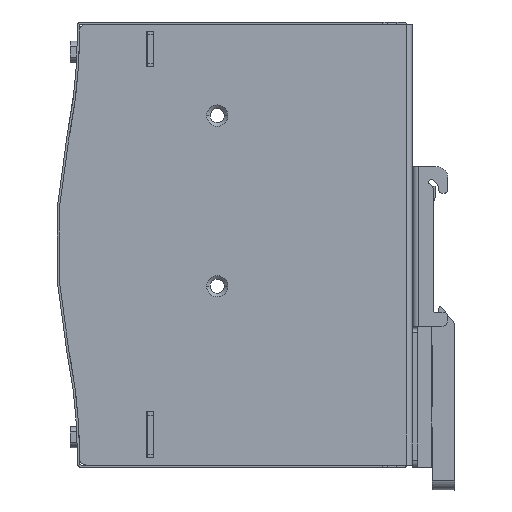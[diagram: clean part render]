
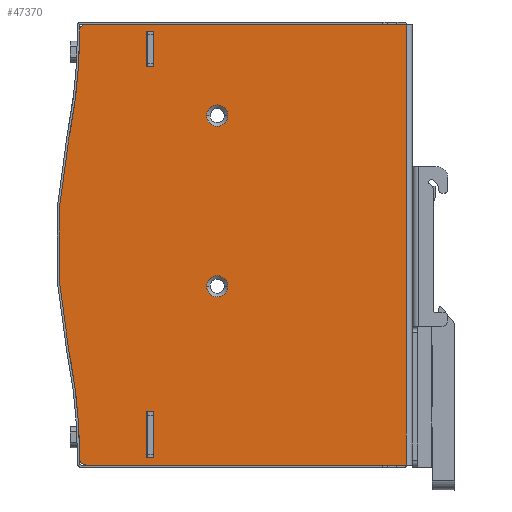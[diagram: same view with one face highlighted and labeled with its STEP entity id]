
A CAD part, front view. The second image highlights one B-rep face of the part: STEP entity #47370.
In plain terms, the highlighted planar face has unit normal (0, -1, 0).
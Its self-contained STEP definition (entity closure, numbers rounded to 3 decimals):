
#890=CARTESIAN_POINT('',(84.303,20.236,74.));
#900=VERTEX_POINT('',#890);
#930=CARTESIAN_POINT('',(78.605,20.236,74.));
#940=DIRECTION('',(1.,0.,0.));
#950=VECTOR('',#940,1.);
#960=LINE('',#930,#950);
#970=CARTESIAN_POINT('',(78.605,20.236,74.));
#980=VERTEX_POINT('',#970);
#990=EDGE_CURVE('',#980,#900,#960,.T.);
#4230=CARTESIAN_POINT('',(78.605,20.236,-50.));
#4240=VERTEX_POINT('',#4230);
#4270=CARTESIAN_POINT('',(78.605,20.236,-50.))
;
#4280=DIRECTION('',(1.,0.,0.));
#4290=VECTOR('',#4280,1.);
#4300=LINE('',#4270,#4290);
#4310=CARTESIAN_POINT('',(84.303,20.236,-50.));
#4320=VERTEX_POINT('',#4310);
#4330=EDGE_CURVE('',#4240,#4320,#4300,.T.);
#5250=CARTESIAN_POINT('',(-5.71,20.236,-50.)
);
#5260=DIRECTION('',(1.,0.,0.));
#5270=VECTOR('',#5260,1.);
#5280=LINE('',#5250,#5270);
#5290=CARTESIAN_POINT('',(-5.71,20.236,-50.)
);
#5300=VERTEX_POINT('',#5290);
#5310=EDGE_CURVE('',#5300,#4240,#5280,.T.);
#45300=CARTESIAN_POINT('',(-7.598,20.236,-48.661
));
#45310=VERTEX_POINT('',#45300);
#45340=CARTESIAN_POINT('',(-5.71,20.236,-48.
));
#45350=DIRECTION('',(0.,-1.,-0.));
#45360=DIRECTION('',(-0.944,0.,-0.331));
#45370=AXIS2_PLACEMENT_3D('',#45340,#45350,#45360);
#45380=CIRCLE('',#45370,2.);
#45390=EDGE_CURVE('',#45310,#5300,#45380,.T.);
#45440=CARTESIAN_POINT('',(-13.667,20.236,0.));
#45450=DIRECTION('',(0.,-1.,0.));
#45460=DIRECTION('',(-1.,0.,0.));
#45470=AXIS2_PLACEMENT_3D('',#45440,#45450,#45460);
#45480=PLANE('',#45470);
#45490=CARTESIAN_POINT('',(-158.628,20.236,-48.113
));
#45500=DIRECTION('',(0.,-1.,0.));
#45510=DIRECTION('',(1.,0.,0.));
#45520=AXIS2_PLACEMENT_3D('',#45490,#45500,#45510);
#45530=CIRCLE('',#45520,151.031);
#45540=CARTESIAN_POINT('',(-7.597,20.236,-48.061)
);
#45550=VERTEX_POINT('',#45540);
#45560=EDGE_CURVE('',#45310,#45550,#45530,.T.);
#45570=ORIENTED_EDGE('',*,*,#45560,.F.);
#45580=CARTESIAN_POINT('',(-157.597,20.236,-48.019
));
#45590=DIRECTION('',(-0.,1.,0.));
#45600=DIRECTION('',(0.983,0.,0.181));
#45610=AXIS2_PLACEMENT_3D('',#45580,#45590,#45600);
#45620=CIRCLE('',#45610,150.);
#45630=CARTESIAN_POINT('',(-10.075,20.236,-20.866));
#45640=VERTEX_POINT('',#45630);
#45650=EDGE_CURVE('',#45640,#45550,#45620,.T.);
#45660=ORIENTED_EDGE('',*,*,#45650,.T.);
#45670=CARTESIAN_POINT('',(-158.628,20.236,-48.113
));
#45680=DIRECTION('',(0.,1.,0.));
#45690=DIRECTION('',(0.98,0.,
0.199));
#45700=AXIS2_PLACEMENT_3D('',#45670,#45680,#45690);
#45710=CIRCLE('',#45700,151.031);
#45720=CARTESIAN_POINT('',(-10.632,20.236,-17.99
));
#45730=VERTEX_POINT('',#45720);
#45740=EDGE_CURVE('',#45730,#45640,#45710,.T.);
#45750=ORIENTED_EDGE('',*,*,#45740,.T.);
#45760=CARTESIAN_POINT('',(136.238,20.236,12.))
;
#45770=DIRECTION('',(0.,-1.,0.));
#45780=DIRECTION('',(-0.98,0.,
0.2));
#45790=AXIS2_PLACEMENT_3D('',#45760,#45770,#45780);
#45800=CIRCLE('',#45790,149.9);
#45810=CARTESIAN_POINT('',(-10.632,20.236,41.99)
);
#45820=VERTEX_POINT('',#45810);
#45830=EDGE_CURVE('',#45820,#45730,#45800,.T.);
#45840=ORIENTED_EDGE('',*,*,#45830,.T.);
#45850=CARTESIAN_POINT('',(-158.628,20.236,72.113)
);
#45860=DIRECTION('',(0.,1.,0.));
#45870=DIRECTION('',(0.984,0.,
-0.18));
#45880=AXIS2_PLACEMENT_3D('',#45850,#45860,#45870);
#45890=CIRCLE('',#45880,151.031);
#45900=CARTESIAN_POINT('',(-10.075,20.236,44.865)
);
#45910=VERTEX_POINT('',#45900);
#45920=EDGE_CURVE('',#45910,#45820,#45890,.T.);
#45930=ORIENTED_EDGE('',*,*,#45920,.T.);
#45940=CARTESIAN_POINT('',(-157.597,20.236,72.019)
);
#45950=DIRECTION('',(-0.,1.,0.));
#45960=DIRECTION('',(1.,0.,0.));
#45970=AXIS2_PLACEMENT_3D('',#45940,#45950,#45960);
#45980=CIRCLE('',#45970,150.);
#45990=CARTESIAN_POINT('',(-7.597,20.236,72.061)
);
#46000=VERTEX_POINT('',#45990);
#46010=EDGE_CURVE('',#46000,#45910,#45980,.T.);
#46020=ORIENTED_EDGE('',*,*,#46010,.T.);
#46030=CARTESIAN_POINT('',(-158.628,20.236,72.113)
);
#46040=DIRECTION('',(0.,-1.,0.));
#46050=DIRECTION('',(1.,0.,0.));
#46060=AXIS2_PLACEMENT_3D('',#46030,#46040,#46050);
#46070=CIRCLE('',#46060,151.031);
#46080=CARTESIAN_POINT('',(-7.598,20.236,72.661))
;
#46090=VERTEX_POINT('',#46080);
#46100=EDGE_CURVE('',#46000,#46090,#46070,.T.);
#46110=ORIENTED_EDGE('',*,*,#46100,.F.);
#46120=CARTESIAN_POINT('',(-5.71,20.236,72.)
);
#46130=DIRECTION('',(0.,-1.,0.));
#46140=DIRECTION('',(0.,0.,1.));
#46150=AXIS2_PLACEMENT_3D('',#46120,#46130,#46140);
#46160=CIRCLE('',#46150,2.);
#46170=CARTESIAN_POINT('',(-5.71,20.236,74.)
);
#46180=VERTEX_POINT('',#46170);
#46190=EDGE_CURVE('',#46180,#46090,#46160,.T.);
#46200=ORIENTED_EDGE('',*,*,#46190,.T.);
#46210=CARTESIAN_POINT('',(78.605,20.236,74.))
;
#46220=DIRECTION('',(-1.,0.,0.));
#46230=VECTOR('',#46220,1.);
#46240=LINE('',#46210,#46230);
#46250=EDGE_CURVE('',#980,#46180,#46240,.T.);
#46260=ORIENTED_EDGE('',*,*,#46250,.T.);
#46270=ORIENTED_EDGE('',*,*,#990,.F.);
#46280=CARTESIAN_POINT('',(84.303,20.236,74.));
#46290=DIRECTION('',(0.,0.,-1.));
#46300=VECTOR('',#46290,1.);
#46310=LINE('',#46280,#46300);
#46320=EDGE_CURVE('',#900,#4320,#46310,.T.);
#46330=ORIENTED_EDGE('',*,*,#46320,.F.);
#46340=ORIENTED_EDGE('',*,*,#4330,.T.);
#46350=ORIENTED_EDGE('',*,*,#5310,.T.);
#46360=ORIENTED_EDGE('',*,*,#45390,.T.);
#46370=EDGE_LOOP('',(#46360,#46350,#46340,#46330,#46270,#46260,#46200,
#46110,#46020,#45930,#45840,#45750,#45660,#45570));
#46380=FACE_OUTER_BOUND('',#46370,.T.);
#46390=CARTESIAN_POINT('',(13.303,20.236,-35.)
);
#46400=DIRECTION('',(0.,0.,-1.));
#46410=VECTOR('',#46400,1.);
#46420=LINE('',#46390,#46410);
#46430=CARTESIAN_POINT('',(13.303,20.236,-35.)
);
#46440=VERTEX_POINT('',#46430);
#46450=CARTESIAN_POINT('',(13.303,20.236,-48.)
);
#46460=VERTEX_POINT('',#46450);
#46470=EDGE_CURVE('',#46440,#46460,#46420,.T.);
#46480=ORIENTED_EDGE('',*,*,#46470,.T.);
#46490=CARTESIAN_POINT('',(11.303,20.236,-35.)
);
#46500=DIRECTION('',(1.,0.,0.));
#46510=VECTOR('',#46500,1.);
#46520=LINE('',#46490,#46510);
#46530=CARTESIAN_POINT('',(11.303,20.236,-35.)
);
#46540=VERTEX_POINT('',#46530);
#46550=EDGE_CURVE('',#46540,#46440,#46520,.T.);
#46560=ORIENTED_EDGE('',*,*,#46550,.T.);
#46570=CARTESIAN_POINT('',(11.303,20.236,-48.)
);
#46580=DIRECTION('',(0.,0.,1.));
#46590=VECTOR('',#46580,1.);
#46600=LINE('',#46570,#46590);
#46610=CARTESIAN_POINT('',(11.303,20.236,-48.)
);
#46620=VERTEX_POINT('',#46610);
#46630=EDGE_CURVE('',#46620,#46540,#46600,.T.);
#46640=ORIENTED_EDGE('',*,*,#46630,.T.);
#46650=CARTESIAN_POINT('',(13.303,20.236,-48.)
);
#46660=DIRECTION('',(-1.,0.,0.));
#46670=VECTOR('',#46660,1.);
#46680=LINE('',#46650,#46670);
#46690=EDGE_CURVE('',#46460,#46620,#46680,.T.);
#46700=ORIENTED_EDGE('',*,*,#46690,.T.);
#46710=EDGE_LOOP('',(#46700,#46640,#46560,#46480));
#46720=FACE_BOUND('',#46710,.T.);
#46730=CARTESIAN_POINT('',(31.103,20.236,48.28))
;
#46740=DIRECTION('',(-0.,1.,0.));
#46750=DIRECTION('',(1.,0.,0.));
#46760=AXIS2_PLACEMENT_3D('',#46730,#46740,#46750);
#46770=CIRCLE('',#46760,3.);
#46780=CARTESIAN_POINT('',(34.103,20.236,48.28))
;
#46790=VERTEX_POINT('',#46780);
#46800=CARTESIAN_POINT('',(28.103,20.236,48.28))
;
#46810=VERTEX_POINT('',#46800);
#46820=EDGE_CURVE('',#46790,#46810,#46770,.T.);
#46830=ORIENTED_EDGE('',*,*,#46820,.T.);
#46840=EDGE_CURVE('',#46810,#46790,#46770,.T.);
#46850=ORIENTED_EDGE('',*,*,#46840,.T.);
#46860=EDGE_LOOP('',(#46850,#46830));
#46870=FACE_BOUND('',#46860,.T.);
#46880=CARTESIAN_POINT('',(31.103,20.236,0.28)
);
#46890=DIRECTION('',(-0.,1.,0.));
#46900=DIRECTION('',(1.,0.,0.));
#46910=AXIS2_PLACEMENT_3D('',#46880,#46890,#46900);
#46920=CIRCLE('',#46910,3.);
#46930=CARTESIAN_POINT('',(34.103,20.236,0.28)
);
#46940=VERTEX_POINT('',#46930);
#46950=CARTESIAN_POINT('',(28.103,20.236,0.28)
);
#46960=VERTEX_POINT('',#46950);
#46970=EDGE_CURVE('',#46940,#46960,#46920,.T.);
#46980=ORIENTED_EDGE('',*,*,#46970,.T.);
#46990=EDGE_CURVE('',#46960,#46940,#46920,.T.);
#47000=ORIENTED_EDGE('',*,*,#46990,.T.);
#47010=EDGE_LOOP('',(#47000,#46980));
#47020=FACE_BOUND('',#47010,.T.);
#47030=CARTESIAN_POINT('',(11.303,20.236,62.))
;
#47040=DIRECTION('',(0.,0.,1.));
#47050=VECTOR('',#47040,1.);
#47060=LINE('',#47030,#47050);
#47070=CARTESIAN_POINT('',(11.303,20.236,62.))
;
#47080=VERTEX_POINT('',#47070);
#47090=CARTESIAN_POINT('',(11.303,20.236,72.))
;
#47100=VERTEX_POINT('',#47090);
#47110=EDGE_CURVE('',#47080,#47100,#47060,.T.);
#47120=ORIENTED_EDGE('',*,*,#47110,.T.);
#47130=CARTESIAN_POINT('',(13.303,20.236,62.))
;
#47140=DIRECTION('',(-1.,0.,0.));
#47150=VECTOR('',#47140,1.);
#47160=LINE('',#47130,#47150);
#47170=CARTESIAN_POINT('',(13.303,20.236,62.))
;
#47180=VERTEX_POINT('',#47170);
#47190=EDGE_CURVE('',#47180,#47080,#47160,.T.);
#47200=ORIENTED_EDGE('',*,*,#47190,.T.);
#47210=CARTESIAN_POINT('',(13.303,20.236,72.))
;
#47220=DIRECTION('',(0.,0.,-1.));
#47230=VECTOR('',#47220,1.);
#47240=LINE('',#47210,#47230);
#47250=CARTESIAN_POINT('',(13.303,20.236,72.))
;
#47260=VERTEX_POINT('',#47250);
#47270=EDGE_CURVE('',#47260,#47180,#47240,.T.);
#47280=ORIENTED_EDGE('',*,*,#47270,.T.);
#47290=CARTESIAN_POINT('',(11.303,20.236,72.))
;
#47300=DIRECTION('',(1.,0.,0.));
#47310=VECTOR('',#47300,1.);
#47320=LINE('',#47290,#47310);
#47330=EDGE_CURVE('',#47100,#47260,#47320,.T.);
#47340=ORIENTED_EDGE('',*,*,#47330,.T.);
#47350=EDGE_LOOP('',(#47340,#47280,#47200,#47120));
#47360=FACE_BOUND('',#47350,.T.);
#47370=ADVANCED_FACE('',(#46380,#46720,#46870,#47020,#47360),#45480,.T.)
;
